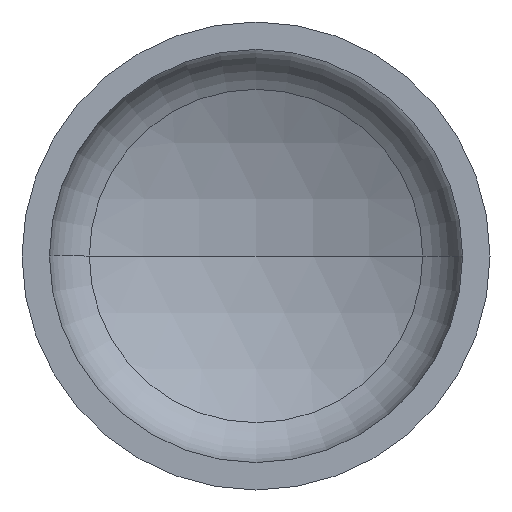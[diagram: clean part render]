
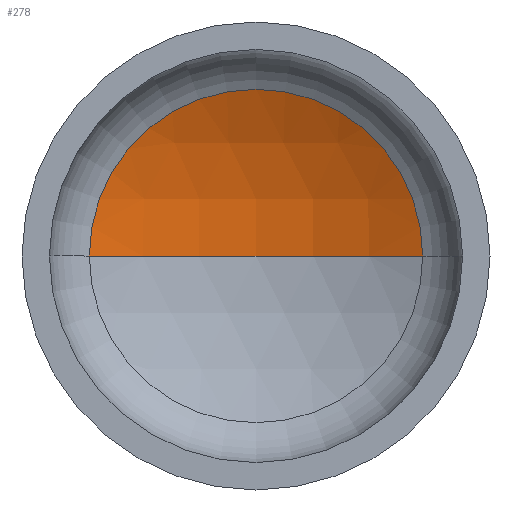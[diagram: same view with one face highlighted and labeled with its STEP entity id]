
A CAD part, front view. The second image highlights one B-rep face of the part: STEP entity #278.
In plain terms, the highlighted spherical face has radius 1120 mm.
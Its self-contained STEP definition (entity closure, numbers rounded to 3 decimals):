
#10 = EDGE_LOOP ( 'NONE', ( #15, #16, #372 ) ) ;
#15 = ORIENTED_EDGE ( 'NONE', *, *, #209, .F. ) ;
#16 = ORIENTED_EDGE ( 'NONE', *, *, #207, .T. ) ;
#18 = VERTEX_POINT ( 'NONE', #281 ) ;
#58 = AXIS2_PLACEMENT_3D ( 'NONE', #248, #77, #175 ) ;
#59 = VERTEX_POINT ( 'NONE', #282 ) ;
#77 = DIRECTION ( 'NONE',  ( 0., 0., -1. ) ) ;
#88 = AXIS2_PLACEMENT_3D ( 'NONE', #276, #275, #274 ) ;
#94 = AXIS2_PLACEMENT_3D ( 'NONE', #247, #181, #179 ) ;
#97 = VERTEX_POINT ( 'NONE', #229 ) ;
#117 = AXIS2_PLACEMENT_3D ( 'NONE', #186, #206, #208 ) ;
#175 = DIRECTION ( 'NONE',  ( -1., 0., 0. ) ) ;
#179 = DIRECTION ( 'NONE',  ( 1., 0., 0. ) ) ;
#181 = DIRECTION ( 'NONE',  ( 0., 0., 1. ) ) ;
#186 = CARTESIAN_POINT ( 'NONE',  ( 0., 292.507, 0. ) ) ;
#196 = EDGE_CURVE ( 'NONE', #59, #97, #236, .T. ) ;
#206 = DIRECTION ( 'NONE',  ( 0., -1., 0. ) ) ;
#207 = EDGE_CURVE ( 'NONE', #18, #59, #286, .T. ) ;
#208 = DIRECTION ( 'NONE',  ( 1., 0., 0. ) ) ;
#209 = EDGE_CURVE ( 'NONE', #18, #97, #396, .T. ) ;
#229 = CARTESIAN_POINT ( 'NONE',  ( -498.74, 292.507, 0. ) ) ;
#236 = CIRCLE ( 'NONE', #117, 498.74 ) ;
#247 = CARTESIAN_POINT ( 'NONE',  ( 0., -710.318, 0. ) ) ;
#248 = CARTESIAN_POINT ( 'NONE',  ( 0., -710.318, 0. ) ) ;
#274 = DIRECTION ( 'NONE',  ( -1., 0., 0. ) ) ;
#275 = DIRECTION ( 'NONE',  ( 0., 0., -1. ) ) ;
#276 = CARTESIAN_POINT ( 'NONE',  ( 0., -710.318, 0. ) ) ;
#277 = SPHERICAL_SURFACE ( 'NONE', #58, 1120. ) ;
#278 = ADVANCED_FACE ( 'NONE', ( #383 ), #277, .F. ) ;
#281 = CARTESIAN_POINT ( 'NONE',  ( 0., 409.682, 0. ) ) ;
#282 = CARTESIAN_POINT ( 'NONE',  ( 498.74, 292.507, 0. ) ) ;
#286 = CIRCLE ( 'NONE', #88, 1120. ) ;
#372 = ORIENTED_EDGE ( 'NONE', *, *, #196, .T. ) ;
#383 = FACE_OUTER_BOUND ( 'NONE', #10, .T. ) ;
#396 = CIRCLE ( 'NONE', #94, 1120. ) ;
